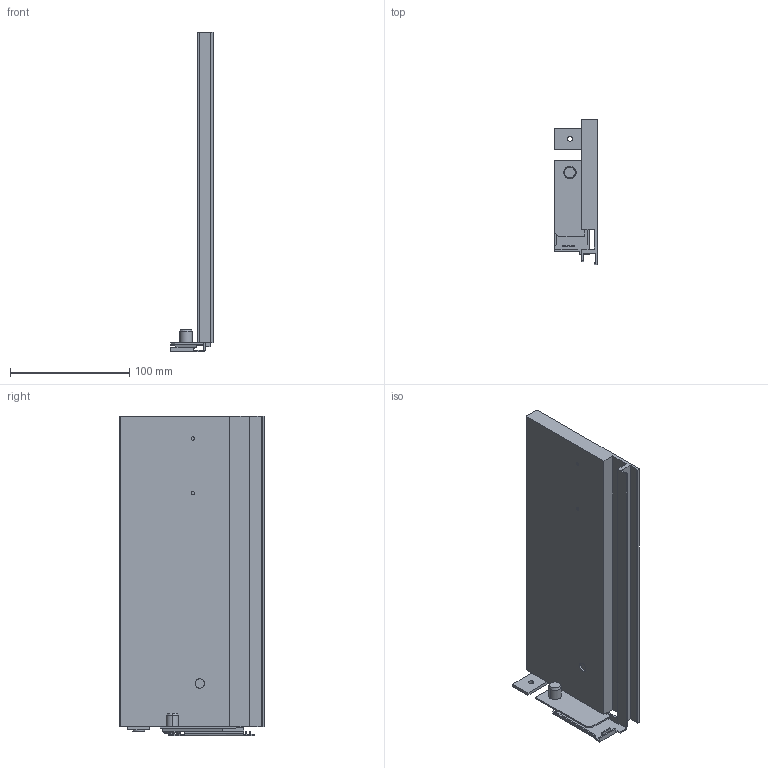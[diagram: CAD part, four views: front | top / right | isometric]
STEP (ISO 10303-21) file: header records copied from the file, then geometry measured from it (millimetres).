
FILE_DESCRIPTION (( 'STEP AP214' ), '1' );
FILE_NAME ('Vionaro_Alu-Zarge_H121_NL270_RE.STEP', '2014-08-18T11:13:38', ( '' ), ( '' ), 'SwSTEP 2.0', 'SolidWorks 2013', '' );
FILE_SCHEMA (( 'AUTOMOTIVE_DESIGN' ));
Length unit declared in the file: millimetre
Products named in the file (1): Vionaro_Alu-Zarge_H121_NL270_RE
Bounding box: 35.61 x 121 x 267.9 mm (x, y, z)
Volume: 349870.7 mm3; surface area: 91221.9 mm2
Topology: 1 solids, 1 shells, 112 faces, 299 edges, 196 vertices
Faces by surface type: plane 88, cylinder 20, cone 4
Entity records: 3491 total; most frequent: CARTESIAN_POINT 614, ORIENTED_EDGE 598, DIRECTION 569, EDGE_CURVE 299, LINE 251, VECTOR 251, VERTEX_POINT 196, AXIS2_PLACEMENT_3D 159
